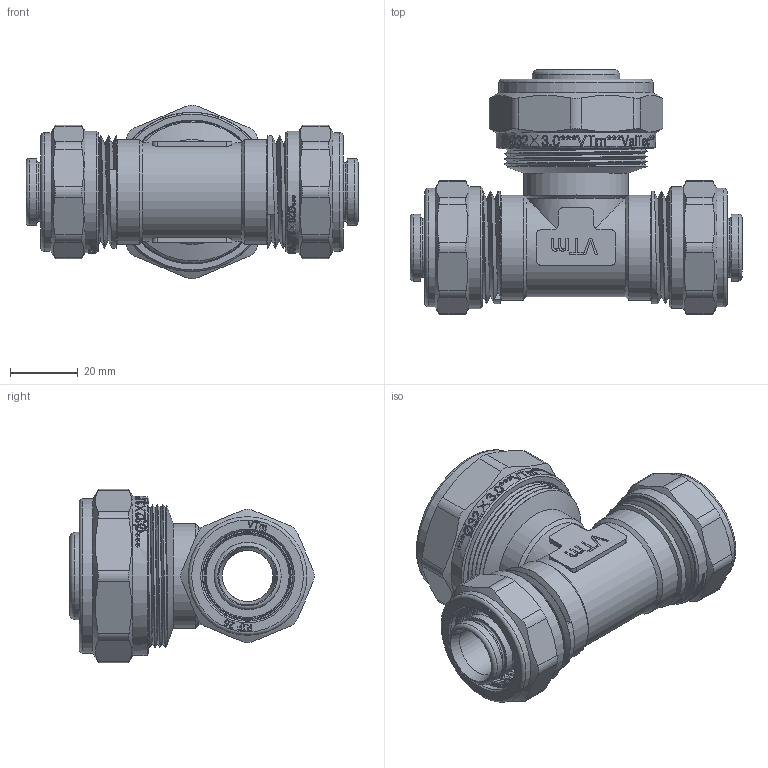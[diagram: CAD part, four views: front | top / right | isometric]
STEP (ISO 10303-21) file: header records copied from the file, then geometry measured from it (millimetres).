
FILE_DESCRIPTION(/* description */ (''),/* implementation_level */ '2;1');
FILE_NAME(/* name */ 'E:\Артём\00000\Работа удаленка\Обжимные фитинги\VTm.331.N.263226.stp',/* time_stamp */ '2020-06-30T13:10:00+03:00',/* author */ ('BeN_GaN'),/* organization */ (''),/* preprocessor_version */ 'ST-DEVELOPER v18',/* originating_system */ 'Autodesk Inventor 2020',/* authorisation */ '');
FILE_SCHEMA (('AUTOMOTIVE_DESIGN { 1 0 10303 214 3 1 1 }'));
Products named in the file (1): VTm.331.N.263226
Bounding box: 98 x 72.19 x 51.3 mm (x, y, z)
Volume: 83093.5 mm3; surface area: 46939 mm2
Topology: 1 solids, 1 shells, 2064 faces, 5864 edges, 3956 vertices
Faces by surface type: bspline 1133, plane 559, cylinder 255, torus 72, cone 45
Full cylindrical faces by diameter (mm): 15 x1, 17.4 x4, 19.8 x10, 20 x1, 23.4 x2, 24.516 x8, 25.435 x10, 25.75 x5, 26.2 x2, 26.7 x2, 28.5 x2, 28.7 x6, 29 x1, 30.5 x4, 30.538 x4, 31 x3, 31.683 x5, 32.2 x1, 32.7 x1, 33.3 x4, 35 x2, 35.5 x1, 36 x2, 40.4 x8, 40.5 x3, 42 x3, 45.5 x1, 47 x1
Entity records: 90418 total; most frequent: CARTESIAN_POINT 44087, ORIENTED_EDGE 11734, DIRECTION 6045, EDGE_CURVE 5867, VERTEX_POINT 3959, B_SPLINE_CURVE_WITH_KNOTS 2489, LINE 2479, VECTOR 2479
